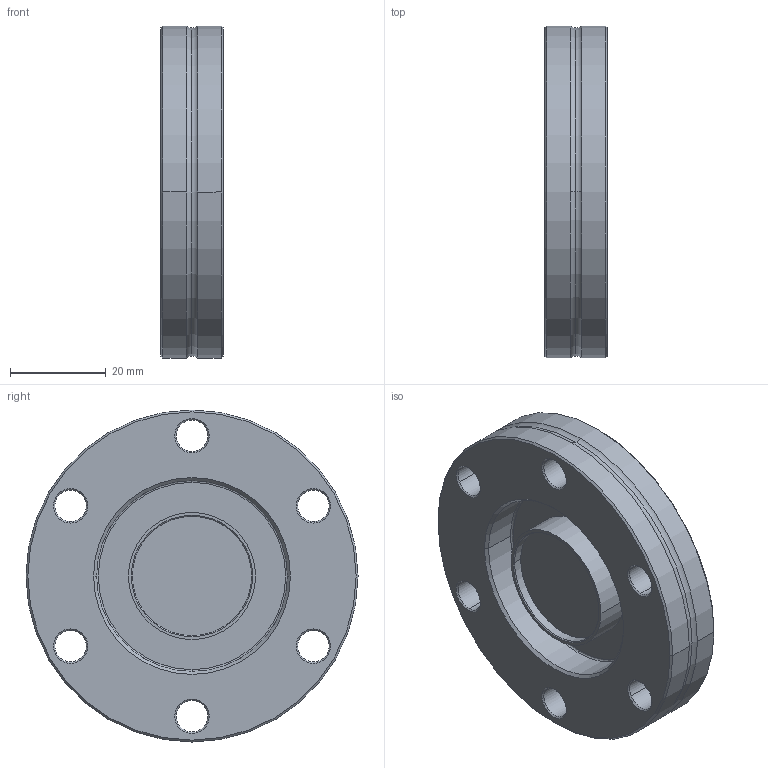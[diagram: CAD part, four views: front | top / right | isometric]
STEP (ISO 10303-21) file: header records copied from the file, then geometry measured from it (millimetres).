
FILE_DESCRIPTION((''),'2;1');
FILE_NAME('N:\Transfer\Berger Martin\Leybold\C15\210122.stp','2005-02-07T09:55:12',('VCRC_L'),(''),'Autodesk Inventor 9','Autodesk Inventor 9','');
FILE_SCHEMA(('AUTOMOTIVE_DESIGN { 1 0 10303 214 1 1 1 1 }'));
Length unit declared in the file: millimetre
Products named in the file (1): 210122
Bounding box: 13 x 69.5 x 69.5 mm (x, y, z)
Volume: 33807.1 mm3; surface area: 14130.3 mm2
Topology: 1 solids, 1 shells, 95 faces, 219 edges, 135 vertices
Faces by surface type: cone 44, bspline 18, cylinder 16, plane 11, torus 6
Entity records: 3179 total; most frequent: CARTESIAN_POINT 918, DIRECTION 522, ORIENTED_EDGE 438, AXIS2_PLACEMENT_3D 225, EDGE_CURVE 219, CIRCLE 147, VERTEX_POINT 135, EDGE_LOOP 116
